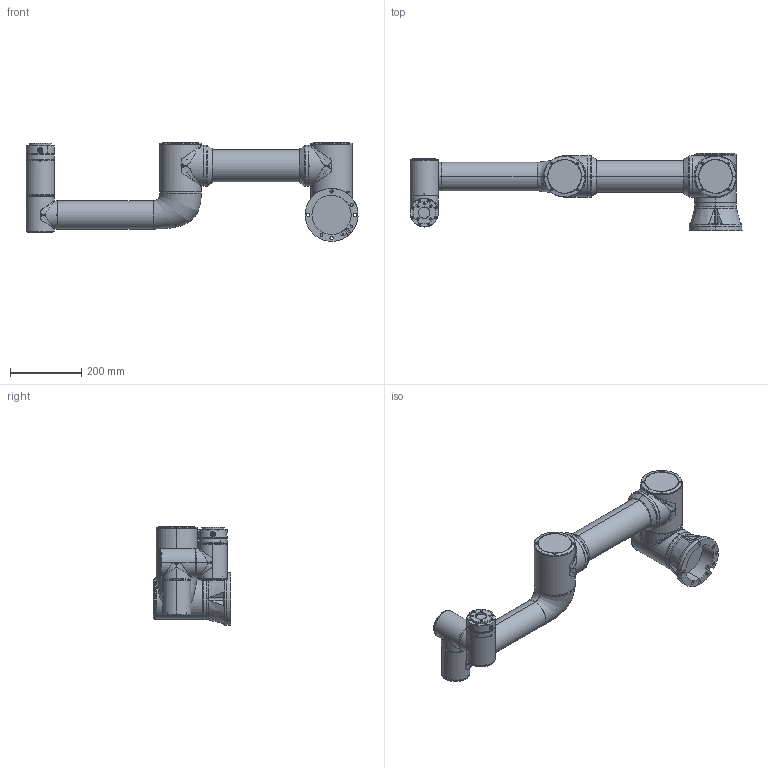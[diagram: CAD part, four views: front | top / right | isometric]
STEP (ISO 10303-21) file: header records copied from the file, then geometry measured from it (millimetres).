
FILE_DESCRIPTION (( 'STEP AP203' ), '1' );
FILE_NAME ('RD37-FR5-V6.0Èí¼þÄ£ÐÍ.STEP', '2024-11-14T06:53:36', ( '' ), ( '' ), 'SwSTEP 2.0', 'SolidWorks 2018', '' );
FILE_SCHEMA (( 'CONFIG_CONTROL_DESIGN' ));
Length unit declared in the file: millimetre
Products named in the file (8): RD37-FR5-V6.0-6; RD37-FR5-V6.0-5; RD37-FR5-V6.0-3; RD37-FR5-V6.0-4; RD37-FR5-V6.0-7; RD37-FR5-V6.0软件模型; RD37-FR5-V6.0-2; RD37-FR5-V6.0-1
Assembly tree (7 placements, depth 2):
  RD37-FR5-V6.0软件模型
    RD37-FR5-V6.0-1
    RD37-FR5-V6.0-2
    RD37-FR5-V6.0-3
    RD37-FR5-V6.0-4
    RD37-FR5-V6.0-5
    RD37-FR5-V6.0-6
    RD37-FR5-V6.0-7
Bounding box: 934.4 x 217.39 x 277.89 mm (x, y, z)
Volume: 11799182 mm3; surface area: 747779.2 mm2
Topology: 37 solids, 62 shells, 2055 faces, 5023 edges, 3253 vertices
Faces by surface type: plane 810, cylinder 795, cone 151, bspline 143, torus 139, sphere 17
Entity records: 190691 total; most frequent: CARTESIAN_POINT 142645, ORIENTED_EDGE 9978, DIRECTION 9457, EDGE_CURVE 4989, AXIS2_PLACEMENT_3D 3720, VERTEX_POINT 3253, EDGE_LOOP 2318, ADVANCED_FACE 2055
